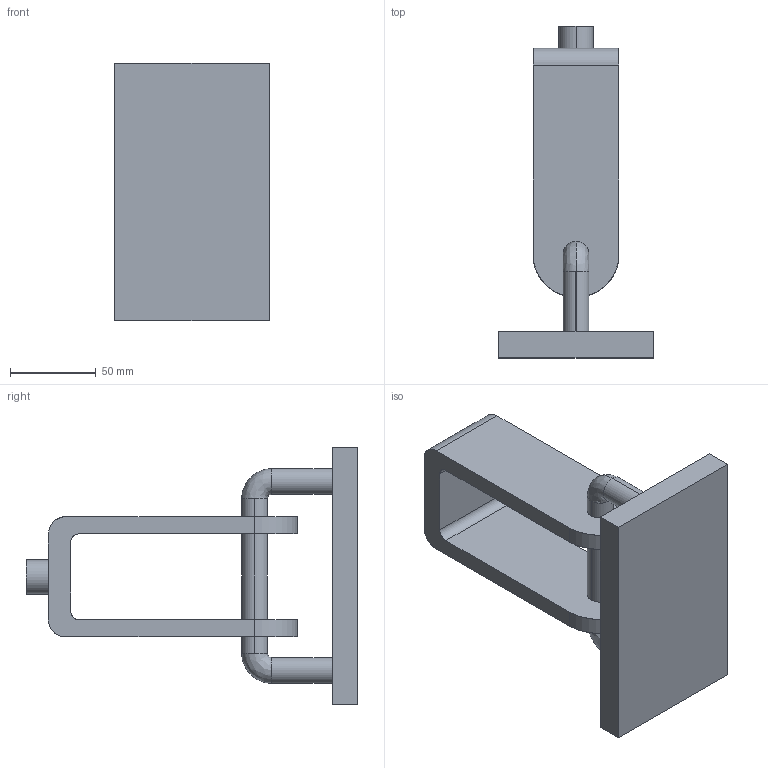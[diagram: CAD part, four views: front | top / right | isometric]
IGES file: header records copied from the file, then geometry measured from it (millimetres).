
Start section: SolidWorks IGES file using analytic representation for surfaces
Global section: file name: C:\Documents and Settings\Pc\Escritorio\Modelos 3D\Capítulo 1 (Estático)\PRACTICAS\P-5\Ensamblaje5.IGS; native system: SolidWorks 2010; preprocessor: SolidWorks 2010; author: Pc; date: 100623.112052; units: millimetre
Bounding box: 90 x 193.14 x 150 mm (x, y, z)
Surface area: 83522.9 mm2 (no closed solid volume)
Topology: 0 solids, 0 shells, 39 faces, 612 edges, 612 vertices
Faces by surface type: revolution 20, bspline 19
